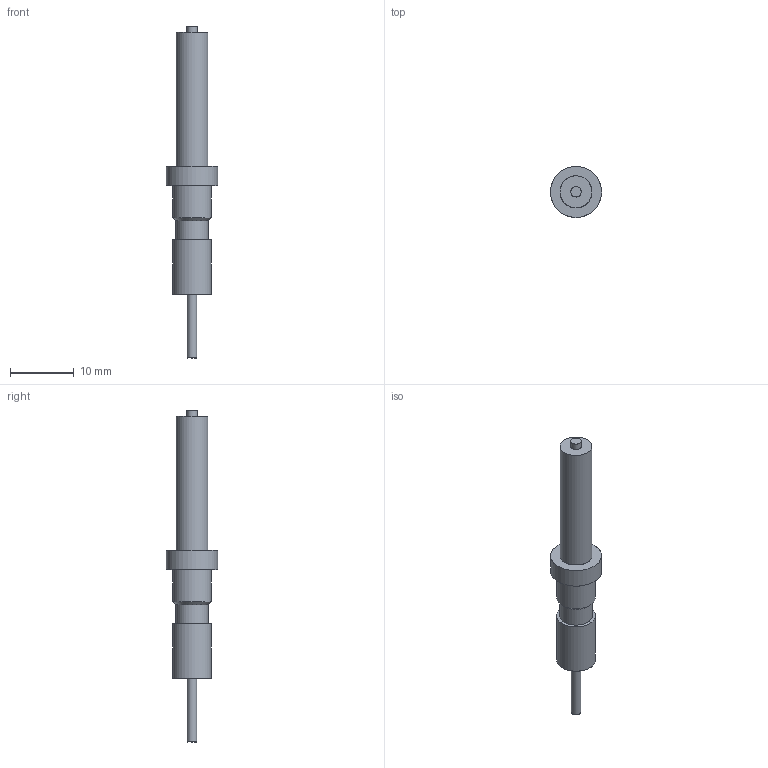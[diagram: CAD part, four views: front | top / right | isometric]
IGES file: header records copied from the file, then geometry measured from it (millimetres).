
Start section: --------------------------------------------------------------------- IGES file generated by CADlook_v12.0.  Visit http://www.cadlook.com for more information on CADlook translators and viewers. ---------------------------------------------------------------------
Global section: file name: D:\File_clienti\Brasile\Fischer\cand-tripla-01-a1.igs; native system: Cimatron E 9.0; preprocessor: CADlook_v12.0; author: aquintaba; organization: None; date: 20100422.125339; units: millimetre
Bounding box: 8 x 8 x 52 mm (x, y, z)
Surface area: 886.1 mm2 (no closed solid volume)
Topology: 0 solids, 0 shells, 15 faces, 102 edges, 108 vertices
Faces by surface type: revolution 8, bspline 7
